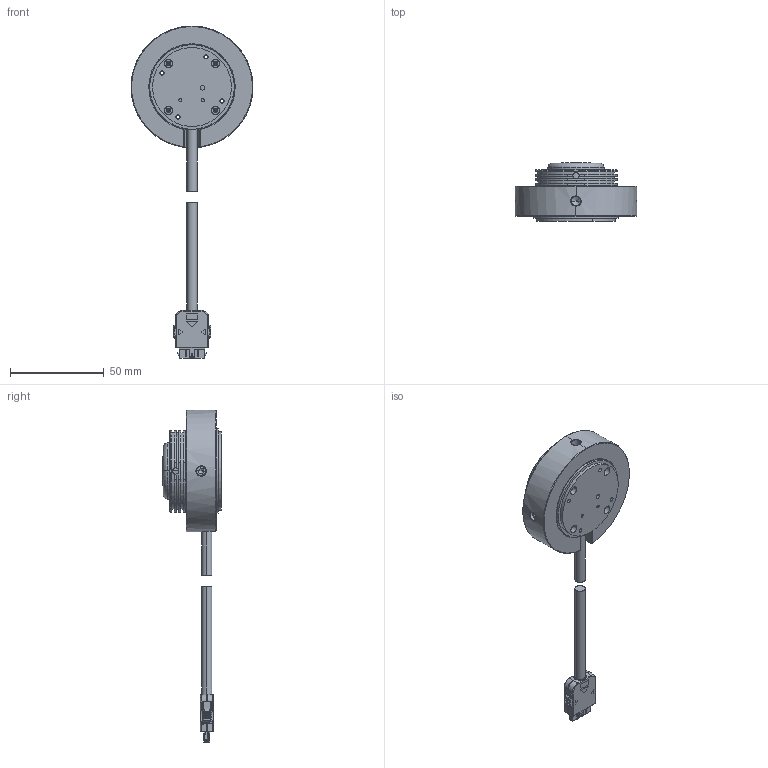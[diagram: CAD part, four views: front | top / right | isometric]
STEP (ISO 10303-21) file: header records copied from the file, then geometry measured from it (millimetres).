
FILE_DESCRIPTION (( 'STEP AP214' ), '1' );
FILE_NAME ('电动反射镜夹具装配.STEP', '2026-09-08T08:54:35', ( '' ), ( '' ), 'SwSTEP 2.0', 'SolidWorks 2024', '' );
FILE_SCHEMA (( 'AUTOMOTIVE_DESIGN' ));
Length unit declared in the file: millimetre
Products named in the file (13): 电动反射镜夹具; hex socket set screws with flat point gb_GB_FASTENER_SCREWS_HSFP M6X8-N; 184-061-00_1.STEP; ST40X-18S-CV-_X_8AÈ_X_88Õ_ST40X-18S-CV_184-061-00_1.STEP; 139-508-01_01_1.STEP; Rev-0-00_MR-E-3 Head Unit.STEP; ST40X-18S-CV_184-061-00_1.STEP; DF20A-20DS-1C_184-061-00_1.STEP; 141-825-00_1.STEP; 142-793-XX - ENVELOPE_Blocked sight_1.STEP; 139-506-00_01_1.STEP; 电动反射镜夹具装配; 141-845-00_184-061-00_1.STEP
Assembly tree (13 placements, depth 5):
  电动反射镜夹具装配
    电动反射镜夹具
    Rev-0-00_MR-E-3 Head Unit.STEP
      184-061-00_1.STEP
        ST40X-18S-CV_184-061-00_1.STEP
          ST40X-18S-CV-_X_8AÈ_X_88Õ_ST40X-18S-CV_184-061-00_1.STEP
        141-825-00_1.STEP
        141-845-00_184-061-00_1.STEP
        DF20A-20DS-1C_184-061-00_1.STEP
      139-506-00_01_1.STEP
      139-508-01_01_1.STEP
      142-793-XX - ENVELOPE_Blocked sight_1.STEP
    hex socket set screws with flat point gb_GB_FASTENER_SCREWS_HSFP M6X8-N  x2
Bounding box: 65 x 31.34 x 177 mm (x, y, z)
Volume: 59952.3 mm3; surface area: 39102.9 mm2
Topology: 32 solids, 32 shells, 1968 faces, 5067 edges, 3271 vertices
Faces by surface type: plane 1048, cylinder 504, bspline 262, torus 90, cone 64
Entity records: 85163 total; most frequent: CARTESIAN_POINT 38749, ORIENTED_EDGE 10010, DIRECTION 8611, EDGE_CURVE 5005, VERTEX_POINT 3242, LINE 2937, VECTOR 2937, AXIS2_PLACEMENT_3D 2837
